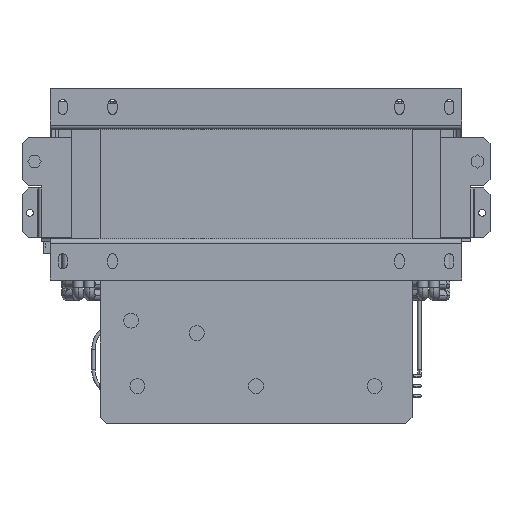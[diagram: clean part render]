
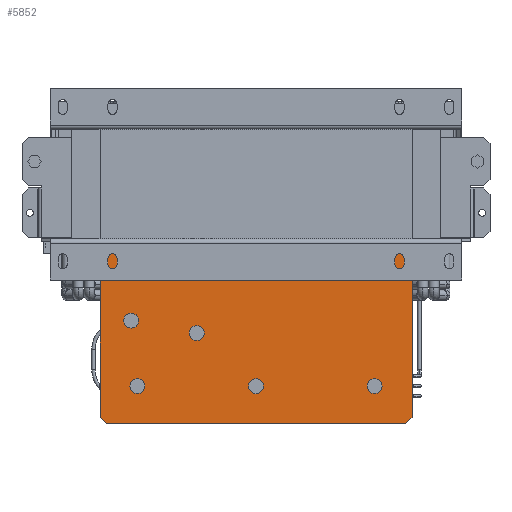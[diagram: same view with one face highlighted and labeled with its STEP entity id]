
A CAD part, front view. The second image highlights one B-rep face of the part: STEP entity #5852.
In plain terms, the highlighted planar face has unit normal (0, -1, 0).
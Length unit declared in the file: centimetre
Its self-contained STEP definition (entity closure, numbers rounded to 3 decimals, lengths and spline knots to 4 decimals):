
#175 = CARTESIAN_POINT ( 'NONE',  ( -20., 8.1, -23.065 ) ) ;
#280 = EDGE_CURVE ( 'NONE', #49999, #16859, #23181, .T. ) ;
#1189 = EDGE_CURVE ( 'NONE', #18460, #30015, #43773, .T. ) ;
#1228 = FACE_OUTER_BOUND ( 'NONE', #36996, .T. ) ;
#1923 = EDGE_LOOP ( 'NONE', ( #33435, #10764 ) ) ;
#2212 = DIRECTION ( 'NONE',  ( 0., -1., 0. ) ) ;
#2638 = EDGE_CURVE ( 'NONE', #43093, #30015, #50036, .T. ) ;
#2709 = ORIENTED_EDGE ( 'NONE', *, *, #12790, .F. ) ;
#3268 = DIRECTION ( 'NONE',  ( 0., 0., 1. ) ) ;
#3533 = LINE ( 'NONE', #36585, #7675 ) ;
#3639 = AXIS2_PLACEMENT_3D ( 'NONE', #46288, #16992, #12675 ) ;
#4708 = EDGE_CURVE ( 'NONE', #18438, #25925, #33954, .T. ) ;
#4729 = CARTESIAN_POINT ( 'NONE',  ( 19., 8.1, -31.165 ) ) ;
#5117 = LINE ( 'NONE', #38164, #27171 ) ;
#5412 = DIRECTION ( 'NONE',  ( 0., 0., 1. ) ) ;
#5444 = EDGE_CURVE ( 'NONE', #36441, #46719, #27966, .T. ) ;
#5455 = EDGE_CURVE ( 'NONE', #15308, #47384, #50385, .T. ) ;
#5573 = DIRECTION ( 'NONE',  ( -1., 0., 0. ) ) ;
#5852 = ADVANCED_FACE ( 'NONE', ( #30194, #22334, #17460, #42956, #18548, #1228 ), #34519, .T. ) ;
#7199 = CIRCLE ( 'NONE', #34891, 1.2 ) ;
#7675 = VECTOR ( 'NONE', #3268, 100. ) ;
#8284 = CIRCLE ( 'NONE', #35940, 1.2 ) ;
#9024 = CARTESIAN_POINT ( 'NONE',  ( 0., 8.1, -32.365 ) ) ;
#9059 = EDGE_CURVE ( 'NONE', #24007, #30774, #7199, .T. ) ;
#9089 = ORIENTED_EDGE ( 'NONE', *, *, #36446, .F. ) ;
#9896 = CIRCLE ( 'NONE', #39327, 1.2 ) ;
#10009 = DIRECTION ( 'NONE',  ( 0., -1., 0. ) ) ;
#10622 = AXIS2_PLACEMENT_3D ( 'NONE', #26326, #2212, #26850 ) ;
#10623 = ORIENTED_EDGE ( 'NONE', *, *, #9059, .F. ) ;
#10764 = ORIENTED_EDGE ( 'NONE', *, *, #46054, .F. ) ;
#11465 = EDGE_CURVE ( 'NONE', #46719, #36441, #50703, .T. ) ;
#11717 = CARTESIAN_POINT ( 'NONE',  ( 19., 8.1, -32.365 ) ) ;
#12675 = DIRECTION ( 'NONE',  ( 0., 0., 1. ) ) ;
#12790 = EDGE_CURVE ( 'NONE', #20399, #19886, #51130, .T. ) ;
#14911 = EDGE_CURVE ( 'NONE', #18460, #19767, #3533, .T. ) ;
#15308 = VERTEX_POINT ( 'NONE', #4729 ) ;
#15668 = EDGE_LOOP ( 'NONE', ( #17229, #32176 ) ) ;
#15686 = CARTESIAN_POINT ( 'NONE',  ( -25., 8.1, -10.165 ) ) ;
#15694 = CARTESIAN_POINT ( 'NONE',  ( 24., 8.1, -38.365 ) ) ;
#15825 = CIRCLE ( 'NONE', #32257, 1.2 ) ;
#16211 = CARTESIAN_POINT ( 'NONE',  ( -25., 8.1, -10.165 ) ) ;
#16700 = DIRECTION ( 'NONE',  ( 0., -1., 0. ) ) ;
#16802 = DIRECTION ( 'NONE',  ( 0., -1., 0. ) ) ;
#16859 = VERTEX_POINT ( 'NONE', #35806 ) ;
#16992 = DIRECTION ( 'NONE',  ( 0., -1., 0. ) ) ;
#17229 = ORIENTED_EDGE ( 'NONE', *, *, #5455, .F. ) ;
#17338 = CARTESIAN_POINT ( 'NONE',  ( -19., 8.1, -31.165 ) ) ;
#17460 = FACE_BOUND ( 'NONE', #34004, .T. ) ;
#17847 = CIRCLE ( 'NONE', #48166, 1.2 ) ;
#18008 = DIRECTION ( 'NONE',  ( 0., 0., -1. ) ) ;
#18438 = VERTEX_POINT ( 'NONE', #17338 ) ;
#18460 = VERTEX_POINT ( 'NONE', #46103 ) ;
#18548 = FACE_BOUND ( 'NONE', #15668, .T. ) ;
#18567 = CARTESIAN_POINT ( 'NONE',  ( 25., 8.1, -10.165 ) ) ;
#18937 = CARTESIAN_POINT ( 'NONE',  ( -9.5, 8.1, -23.865 ) ) ;
#19767 = VERTEX_POINT ( 'NONE', #16211 ) ;
#19886 = VERTEX_POINT ( 'NONE', #51437 ) ;
#20399 = VERTEX_POINT ( 'NONE', #18567 ) ;
#20524 = CARTESIAN_POINT ( 'NONE',  ( -20., 8.1, -21.865 ) ) ;
#20550 = LINE ( 'NONE', #15686, #36371 ) ;
#20910 = ORIENTED_EDGE ( 'NONE', *, *, #4708, .F. ) ;
#21057 = ORIENTED_EDGE ( 'NONE', *, *, #41483, .F. ) ;
#22185 = CARTESIAN_POINT ( 'NONE',  ( -9.5, 8.1, -25.065 ) ) ;
#22334 = FACE_BOUND ( 'NONE', #1923, .T. ) ;
#23181 = CIRCLE ( 'NONE', #53487, 1.2 ) ;
#23642 = AXIS2_PLACEMENT_3D ( 'NONE', #20524, #32709, #37055 ) ;
#24007 = VERTEX_POINT ( 'NONE', #22185 ) ;
#24147 = VECTOR ( 'NONE', #35602, 100. ) ;
#24413 = CARTESIAN_POINT ( 'NONE',  ( 0., 8.1, -32.365 ) ) ;
#24436 = DIRECTION ( 'NONE',  ( 0., -1., 0. ) ) ;
#25212 = DIRECTION ( 'NONE',  ( 0., 0., 1. ) ) ;
#25436 = ORIENTED_EDGE ( 'NONE', *, *, #11465, .F. ) ;
#25509 = EDGE_LOOP ( 'NONE', ( #20910, #9089 ) ) ;
#25722 = CARTESIAN_POINT ( 'NONE',  ( -19., 8.1, -33.565 ) ) ;
#25925 = VERTEX_POINT ( 'NONE', #25722 ) ;
#26077 = DIRECTION ( 'NONE',  ( 0., 0., 1. ) ) ;
#26270 = CARTESIAN_POINT ( 'NONE',  ( 0., 8.1, -31.165 ) ) ;
#26326 = CARTESIAN_POINT ( 'NONE',  ( -19., 8.1, -32.365 ) ) ;
#26850 = DIRECTION ( 'NONE',  ( 0., 0., 1. ) ) ;
#27171 = VECTOR ( 'NONE', #50661, 100. ) ;
#27966 = CIRCLE ( 'NONE', #23642, 1.2 ) ;
#27969 = DIRECTION ( 'NONE',  ( 0., 0., 1. ) ) ;
#28924 = AXIS2_PLACEMENT_3D ( 'NONE', #49246, #16700, #33218 ) ;
#29509 = CARTESIAN_POINT ( 'NONE',  ( -9.5, 8.1, -22.665 ) ) ;
#29632 = DIRECTION ( 'NONE',  ( 0., -1., 0. ) ) ;
#30015 = VERTEX_POINT ( 'NONE', #50797 ) ;
#30194 = FACE_BOUND ( 'NONE', #49823, .T. ) ;
#30774 = VERTEX_POINT ( 'NONE', #29509 ) ;
#31279 = ORIENTED_EDGE ( 'NONE', *, *, #2638, .F. ) ;
#32055 = CARTESIAN_POINT ( 'NONE',  ( -24., 8.1, -38.365 ) ) ;
#32176 = ORIENTED_EDGE ( 'NONE', *, *, #34638, .F. ) ;
#32257 = AXIS2_PLACEMENT_3D ( 'NONE', #18937, #10009, #5412 ) ;
#32709 = DIRECTION ( 'NONE',  ( 0., -1., 0. ) ) ;
#33218 = DIRECTION ( 'NONE',  ( 0., 0., -1. ) ) ;
#33435 = ORIENTED_EDGE ( 'NONE', *, *, #280, .F. ) ;
#33951 = AXIS2_PLACEMENT_3D ( 'NONE', #38874, #34252, #18008 ) ;
#33954 = CIRCLE ( 'NONE', #10622, 1.2 ) ;
#34004 = EDGE_LOOP ( 'NONE', ( #36166, #10623 ) ) ;
#34199 = DIRECTION ( 'NONE',  ( 0., -1., 0. ) ) ;
#34252 = DIRECTION ( 'NONE',  ( 0., -1., 0. ) ) ;
#34269 = EDGE_CURVE ( 'NONE', #43093, #19886, #5117, .T. ) ;
#34278 = VECTOR ( 'NONE', #50324, 100. ) ;
#34519 = PLANE ( 'NONE',  #33951 ) ;
#34638 = EDGE_CURVE ( 'NONE', #47384, #15308, #9896, .T. ) ;
#34891 = AXIS2_PLACEMENT_3D ( 'NONE', #37402, #16802, #25212 ) ;
#35602 = DIRECTION ( 'NONE',  ( 0.707, 0., -0.707 ) ) ;
#35806 = CARTESIAN_POINT ( 'NONE',  ( 0., 8.1, -33.565 ) ) ;
#35940 = AXIS2_PLACEMENT_3D ( 'NONE', #9024, #34199, #26077 ) ;
#36166 = ORIENTED_EDGE ( 'NONE', *, *, #51358, .F. ) ;
#36280 = DIRECTION ( 'NONE',  ( 1., 0., 0. ) ) ;
#36371 = VECTOR ( 'NONE', #36280, 100. ) ;
#36441 = VERTEX_POINT ( 'NONE', #53507 ) ;
#36446 = EDGE_CURVE ( 'NONE', #25925, #18438, #17847, .T. ) ;
#36585 = CARTESIAN_POINT ( 'NONE',  ( -25., 8.1, -38.365 ) ) ;
#36996 = EDGE_LOOP ( 'NONE', ( #38621, #44412, #31279, #50025, #2709, #21057 ) ) ;
#37055 = DIRECTION ( 'NONE',  ( 0., 0., -1. ) ) ;
#37402 = CARTESIAN_POINT ( 'NONE',  ( -9.5, 8.1, -23.865 ) ) ;
#38164 = CARTESIAN_POINT ( 'NONE',  ( 25., 8.1, -37.365 ) ) ;
#38621 = ORIENTED_EDGE ( 'NONE', *, *, #14911, .F. ) ;
#38874 = CARTESIAN_POINT ( 'NONE',  ( 0., 8.1, 0. ) ) ;
#39327 = AXIS2_PLACEMENT_3D ( 'NONE', #11717, #24436, #27969 ) ;
#40381 = CARTESIAN_POINT ( 'NONE',  ( 19., 8.1, -33.565 ) ) ;
#41046 = CARTESIAN_POINT ( 'NONE',  ( -19., 8.1, -32.365 ) ) ;
#41483 = EDGE_CURVE ( 'NONE', #19767, #20399, #20550, .T. ) ;
#41903 = CARTESIAN_POINT ( 'NONE',  ( -25., 8.1, -38.365 ) ) ;
#42596 = ORIENTED_EDGE ( 'NONE', *, *, #5444, .F. ) ;
#42956 = FACE_BOUND ( 'NONE', #25509, .T. ) ;
#43093 = VERTEX_POINT ( 'NONE', #15694 ) ;
#43773 = LINE ( 'NONE', #32055, #24147 ) ;
#44412 = ORIENTED_EDGE ( 'NONE', *, *, #1189, .T. ) ;
#44763 = DIRECTION ( 'NONE',  ( 0., 0., 1. ) ) ;
#46054 = EDGE_CURVE ( 'NONE', #16859, #49999, #8284, .T. ) ;
#46103 = CARTESIAN_POINT ( 'NONE',  ( -25., 8.1, -37.365 ) ) ;
#46193 = DIRECTION ( 'NONE',  ( 0., 0., 1. ) ) ;
#46288 = CARTESIAN_POINT ( 'NONE',  ( 19., 8.1, -32.365 ) ) ;
#46719 = VERTEX_POINT ( 'NONE', #175 ) ;
#47070 = CARTESIAN_POINT ( 'NONE',  ( 25., 8.1, -38.365 ) ) ;
#47384 = VERTEX_POINT ( 'NONE', #40381 ) ;
#48166 = AXIS2_PLACEMENT_3D ( 'NONE', #41046, #29632, #46193 ) ;
#49099 = DIRECTION ( 'NONE',  ( 0., -1., 0. ) ) ;
#49246 = CARTESIAN_POINT ( 'NONE',  ( -20., 8.1, -21.865 ) ) ;
#49823 = EDGE_LOOP ( 'NONE', ( #25436, #42596 ) ) ;
#49999 = VERTEX_POINT ( 'NONE', #26270 ) ;
#50025 = ORIENTED_EDGE ( 'NONE', *, *, #34269, .T. ) ;
#50036 = LINE ( 'NONE', #41903, #52853 ) ;
#50324 = DIRECTION ( 'NONE',  ( 0., 0., -1. ) ) ;
#50385 = CIRCLE ( 'NONE', #3639, 1.2 ) ;
#50661 = DIRECTION ( 'NONE',  ( 0.707, 0., 0.707 ) ) ;
#50703 = CIRCLE ( 'NONE', #28924, 1.2 ) ;
#50797 = CARTESIAN_POINT ( 'NONE',  ( -24., 8.1, -38.365 ) ) ;
#51130 = LINE ( 'NONE', #47070, #34278 ) ;
#51358 = EDGE_CURVE ( 'NONE', #30774, #24007, #15825, .T. ) ;
#51437 = CARTESIAN_POINT ( 'NONE',  ( 25., 8.1, -37.365 ) ) ;
#52853 = VECTOR ( 'NONE', #5573, 100. ) ;
#53487 = AXIS2_PLACEMENT_3D ( 'NONE', #24413, #49099, #44763 ) ;
#53507 = CARTESIAN_POINT ( 'NONE',  ( -20., 8.1, -20.665 ) ) ;
